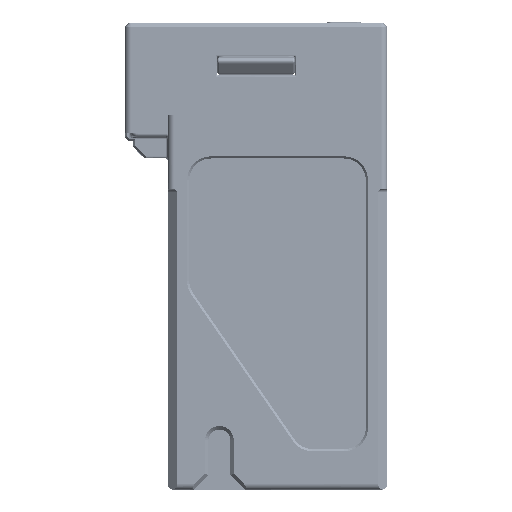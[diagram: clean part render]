
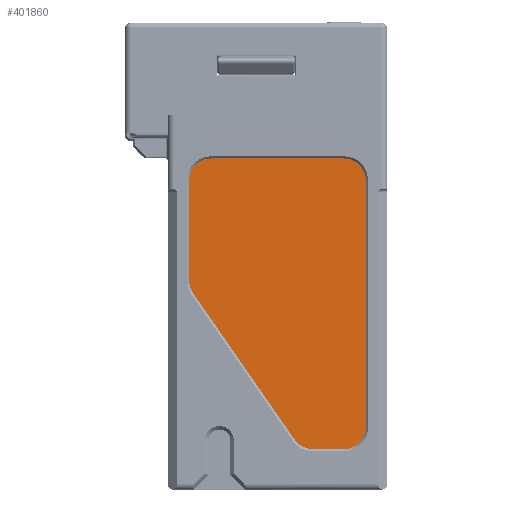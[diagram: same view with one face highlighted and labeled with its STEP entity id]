
A CAD part, left-side view. The second image highlights one B-rep face of the part: STEP entity #401860.
In plain terms, the highlighted planar face has unit normal (-1, 0, 0).
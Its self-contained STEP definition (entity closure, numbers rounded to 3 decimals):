
#189 = EDGE_CURVE ( 'NONE', #464325, #132482, #16474, .T. ) ;
#16474 = LINE ( 'NONE', #205833, #393422 ) ;
#19349 = EDGE_CURVE ( 'NONE', #329522, #369164, #125929, .T. ) ;
#28037 = DIRECTION ( 'NONE',  ( 1., 0., 0. ) ) ;
#43026 = ORIENTED_EDGE ( 'NONE', *, *, #271633, .T. ) ;
#46353 = VECTOR ( 'NONE', #474239, 1000. ) ;
#48087 = EDGE_LOOP ( 'NONE', ( #43026, #206696, #446028, #318395 ) ) ;
#68885 = CARTESIAN_POINT ( 'NONE',  ( -36.15, -23.15, 80.4 ) ) ;
#96938 = CARTESIAN_POINT ( 'NONE',  ( -36.15, -22.15, 0.5 ) ) ;
#100286 = PLANE ( 'NONE',  #154656 ) ;
#125929 = LINE ( 'NONE', #96938, #269131 ) ;
#132482 = VERTEX_POINT ( 'NONE', #269375 ) ;
#154656 = AXIS2_PLACEMENT_3D ( 'NONE', #68885, #28037, #365096 ) ;
#169660 = DIRECTION ( 'NONE',  ( 0., -1., 0. ) ) ;
#182741 = LINE ( 'NONE', #255050, #46353 ) ;
#193808 = CARTESIAN_POINT ( 'NONE',  ( -36.15, -22.15, 0.5 ) ) ;
#205833 = CARTESIAN_POINT ( 'NONE',  ( -36.15, -23.15, 80.4 ) ) ;
#206696 = ORIENTED_EDGE ( 'NONE', *, *, #19349, .T. ) ;
#218965 = CARTESIAN_POINT ( 'NONE',  ( -36.15, 22.15, 80.4 ) ) ;
#231361 = EDGE_CURVE ( 'NONE', #369164, #132482, #249158, .T. ) ;
#241948 = VECTOR ( 'NONE', #314341, 1000. ) ;
#249158 = LINE ( 'NONE', #350524, #241948 ) ;
#255050 = CARTESIAN_POINT ( 'NONE',  ( -36.15, 22.15, 80.4 ) ) ;
#269131 = VECTOR ( 'NONE', #388421, 1000. ) ;
#269375 = CARTESIAN_POINT ( 'NONE',  ( -36.15, -22.15, 80.4 ) ) ;
#271633 = EDGE_CURVE ( 'NONE', #464325, #329522, #182741, .T. ) ;
#283380 = FACE_OUTER_BOUND ( 'NONE', #48087, .T. ) ;
#310945 = CARTESIAN_POINT ( 'NONE',  ( -36.15, 22.15, 0.5 ) ) ;
#314341 = DIRECTION ( 'NONE',  ( 0., 0., 1. ) ) ;
#318395 = ORIENTED_EDGE ( 'NONE', *, *, #189, .F. ) ;
#329522 = VERTEX_POINT ( 'NONE', #310945 ) ;
#350524 = CARTESIAN_POINT ( 'NONE',  ( -36.15, -22.15, 80.4 ) ) ;
#365096 = DIRECTION ( 'NONE',  ( 0., 0., -1. ) ) ;
#369164 = VERTEX_POINT ( 'NONE', #193808 ) ;
#388421 = DIRECTION ( 'NONE',  ( 0., -1., 0. ) ) ;
#393422 = VECTOR ( 'NONE', #169660, 1000. ) ;
#401860 = ADVANCED_FACE ( 'NONE', ( #283380 ), #100286, .F. ) ;
#446028 = ORIENTED_EDGE ( 'NONE', *, *, #231361, .T. ) ;
#464325 = VERTEX_POINT ( 'NONE', #218965 ) ;
#474239 = DIRECTION ( 'NONE',  ( 0., 0., -1. ) ) ;
